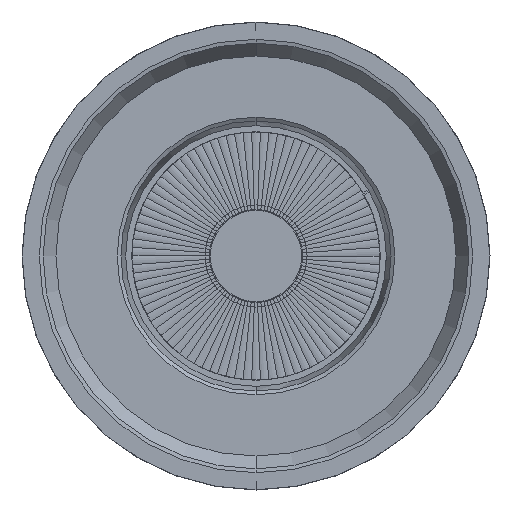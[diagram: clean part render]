
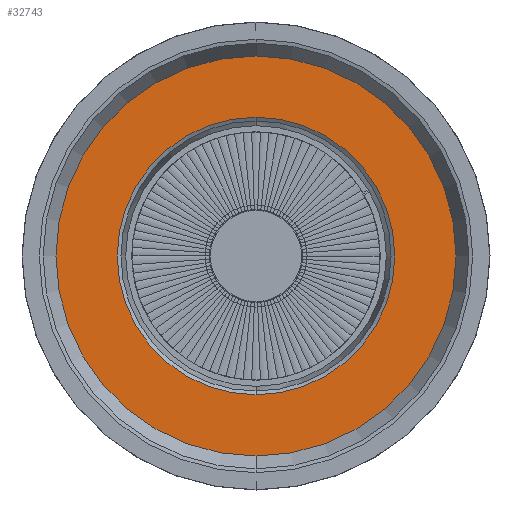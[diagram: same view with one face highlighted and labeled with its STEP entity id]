
A CAD part, front view. The second image highlights one B-rep face of the part: STEP entity #32743.
In plain terms, the highlighted planar face has unit normal (0, -1, 0).
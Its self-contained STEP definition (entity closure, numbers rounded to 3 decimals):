
#1021 = CIRCLE ( 'NONE', #3110, 26.618 ) ;
#1915 = CARTESIAN_POINT ( 'NONE',  ( 0., -71.253, -26.618 ) ) ;
#2967 = CIRCLE ( 'NONE', #17005, 38.376 ) ;
#3110 = AXIS2_PLACEMENT_3D ( 'NONE', #38681, #29241, #39120 ) ;
#3112 = FACE_OUTER_BOUND ( 'NONE', #15194, .T. ) ;
#8840 = DIRECTION ( 'NONE',  ( 0., 1., 0. ) ) ;
#8930 = CARTESIAN_POINT ( 'NONE',  ( 0., -71.253, 0. ) ) ;
#9295 = CARTESIAN_POINT ( 'NONE',  ( 0., -71.253, -38.376 ) ) ;
#9883 = ORIENTED_EDGE ( 'NONE', *, *, #34413, .T. ) ;
#10727 = AXIS2_PLACEMENT_3D ( 'NONE', #36040, #41841, #29436 ) ;
#11636 = ORIENTED_EDGE ( 'NONE', *, *, #22087, .F. ) ;
#12392 = VERTEX_POINT ( 'NONE', #1915 ) ;
#15194 = EDGE_LOOP ( 'NONE', ( #11636, #35482 ) ) ;
#16105 = DIRECTION ( 'NONE',  ( 0., 0., 1. ) ) ;
#17005 = AXIS2_PLACEMENT_3D ( 'NONE', #29932, #20255, #16105 ) ;
#17744 = EDGE_CURVE ( 'NONE', #12392, #21848, #32703, .T. ) ;
#19142 = DIRECTION ( 'NONE',  ( 0., 0., 1. ) ) ;
#19344 = FACE_BOUND ( 'NONE', #37110, .T. ) ;
#20255 = DIRECTION ( 'NONE',  ( 0., 1., 0. ) ) ;
#21201 = AXIS2_PLACEMENT_3D ( 'NONE', #29244, #8840, #19142 ) ;
#21344 = EDGE_CURVE ( 'NONE', #39655, #43307, #2967, .T. ) ;
#21848 = VERTEX_POINT ( 'NONE', #23996 ) ;
#22087 = EDGE_CURVE ( 'NONE', #43307, #39655, #38016, .T. ) ;
#22327 = DIRECTION ( 'NONE',  ( 0., 1., 0. ) ) ;
#23170 = DIRECTION ( 'NONE',  ( 0., 0., 1. ) ) ;
#23996 = CARTESIAN_POINT ( 'NONE',  ( 0., -71.253, 26.618 ) ) ;
#29241 = DIRECTION ( 'NONE',  ( 0., 1., 0. ) ) ;
#29244 = CARTESIAN_POINT ( 'NONE',  ( 0., -71.253, 0. ) ) ;
#29436 = DIRECTION ( 'NONE',  ( 0., 0., 1. ) ) ;
#29932 = CARTESIAN_POINT ( 'NONE',  ( 0., -71.253, 0. ) ) ;
#32703 = CIRCLE ( 'NONE', #43245, 26.618 ) ;
#32743 = ADVANCED_FACE ( 'NONE', ( #19344, #3112 ), #36250, .F. ) ;
#34413 = EDGE_CURVE ( 'NONE', #21848, #12392, #1021, .T. ) ;
#34656 = CARTESIAN_POINT ( 'NONE',  ( 0., -71.253, 38.376 ) ) ;
#34900 = ORIENTED_EDGE ( 'NONE', *, *, #17744, .T. ) ;
#35482 = ORIENTED_EDGE ( 'NONE', *, *, #21344, .F. ) ;
#36040 = CARTESIAN_POINT ( 'NONE',  ( 26., -71.253, 0. ) ) ;
#36250 = PLANE ( 'NONE',  #10727 ) ;
#37110 = EDGE_LOOP ( 'NONE', ( #34900, #9883 ) ) ;
#38016 = CIRCLE ( 'NONE', #21201, 38.376 ) ;
#38681 = CARTESIAN_POINT ( 'NONE',  ( 0., -71.253, 0. ) ) ;
#39120 = DIRECTION ( 'NONE',  ( 0., 0., 1. ) ) ;
#39655 = VERTEX_POINT ( 'NONE', #34656 ) ;
#41841 = DIRECTION ( 'NONE',  ( 0., 1., 0. ) ) ;
#43245 = AXIS2_PLACEMENT_3D ( 'NONE', #8930, #22327, #23170 ) ;
#43307 = VERTEX_POINT ( 'NONE', #9295 ) ;
